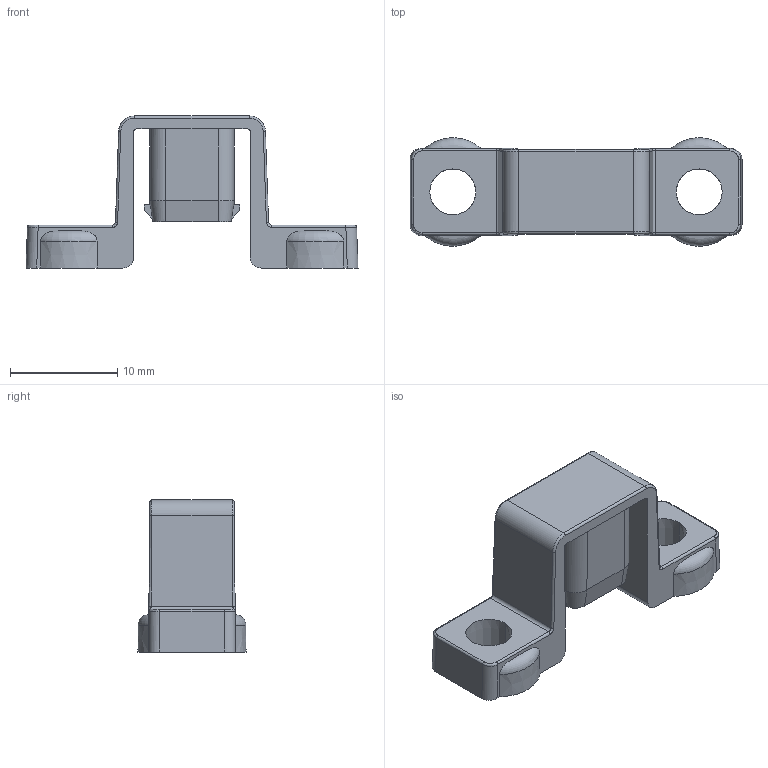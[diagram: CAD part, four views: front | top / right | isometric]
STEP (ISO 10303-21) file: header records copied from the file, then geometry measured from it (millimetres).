
FILE_DESCRIPTION(('Creo Elements/Direct Modeling STEP Export'),'2;1');
FILE_NAME('H13-0011-CE901_QTM-H1.stp','2014-07-16T17:13:17',(''),(''),'Creo Elements/Direct Modeling STEP processor for AP214 (Solid Model)','Creo Elements/Direct Modeling 18.1B 29-Sep-2012 (C) Parametric Technology GmbH','');
FILE_SCHEMA(('AUTOMOTIVE_DESIGN { 1 0 10303 214 1 1 1 1 }'));
Length unit declared in the file: millimetre
Products named in the file (2): H13-0011-CC001_QTM-H1_本体
Assembly tree (1 placements, depth 2):
  H13-0011-CC001_QTM-H1_本体
    H13-0011-CC001_QTM-H1_本体
Bounding box: 31 x 10.1 x 14.2 mm (x, y, z)
Volume: 1129.8 mm3; surface area: 1637.3 mm2
Topology: 1 solids, 1 shells, 128 faces, 342 edges, 216 vertices
Faces by surface type: plane 50, cylinder 44, bspline 22, cone 8, torus 4
Entity records: 5504 total; most frequent: CARTESIAN_POINT 2555, ORIENTED_EDGE 684, DIRECTION 508, EDGE_CURVE 342, VERTEX_POINT 216, VECTOR 182, LINE 182, AXIS2_PLACEMENT_3D 163
